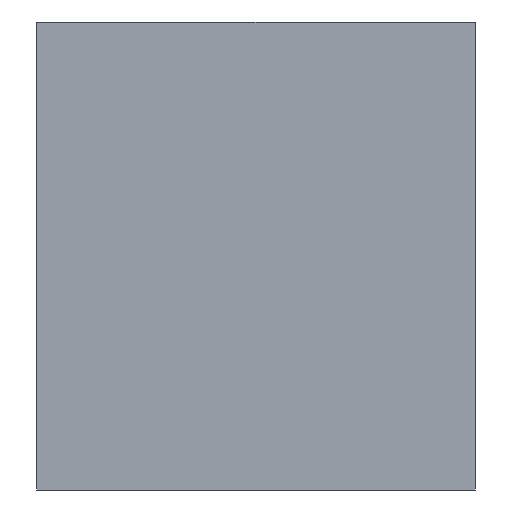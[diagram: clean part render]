
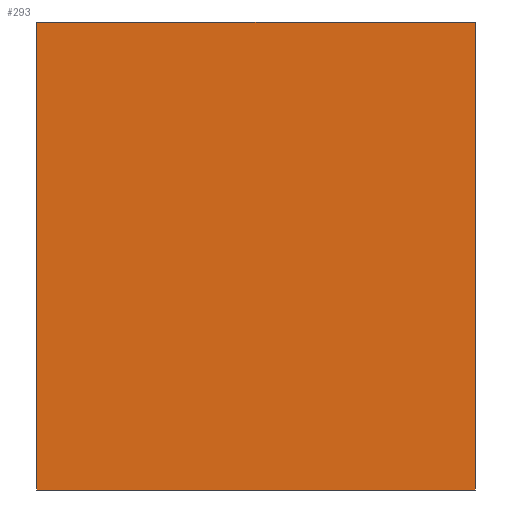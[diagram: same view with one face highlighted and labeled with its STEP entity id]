
A CAD part, left-side view. The second image highlights one B-rep face of the part: STEP entity #293.
In plain terms, the highlighted planar face has unit normal (-1, 0, 0).
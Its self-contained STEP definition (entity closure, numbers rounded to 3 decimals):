
#293=ADVANCED_FACE('',(#746),#6262,.T.);
#746=FACE_OUTER_BOUND('',#1235,.T.);
#1235=EDGE_LOOP('',(#2438,#2439,#2440,#2441));
#2438=ORIENTED_EDGE('',*,*,#4020,.F.);
#2439=ORIENTED_EDGE('',*,*,#4012,.F.);
#2440=ORIENTED_EDGE('',*,*,#4021,.F.);
#2441=ORIENTED_EDGE('',*,*,#4016,.T.);
#4012=EDGE_CURVE('',#5854,#5855,#4789,.T.);
#4016=EDGE_CURVE('',#5858,#5859,#4793,.T.);
#4020=EDGE_CURVE('',#5855,#5859,#4797,.T.);
#4021=EDGE_CURVE('',#5858,#5854,#4798,.T.);
#4789=B_SPLINE_CURVE_WITH_KNOTS('',1,(#15861,#15862),.UNSPECIFIED.,.F.,
 .F.,(2,2),(0.,150.),.UNSPECIFIED.);
#4793=B_SPLINE_CURVE_WITH_KNOTS('',1,(#15869,#15870),.UNSPECIFIED.,.F.,
 .F.,(2,2),(-150.,0.),.UNSPECIFIED.);
#4797=B_SPLINE_CURVE_WITH_KNOTS('',1,(#15877,#15878),.UNSPECIFIED.,.F.,
 .F.,(2,2),(-160.,0.),.UNSPECIFIED.);
#4798=B_SPLINE_CURVE_WITH_KNOTS('',1,(#15879,#15880),.UNSPECIFIED.,.F.,
 .F.,(2,2),(-160.,0.),.UNSPECIFIED.);
#5854=VERTEX_POINT('',#15749);
#5855=VERTEX_POINT('',#15750);
#5858=VERTEX_POINT('',#15753);
#5859=VERTEX_POINT('',#15754);
#6262=PLANE('',#6715);
#6715=AXIS2_PLACEMENT_3D('',#15541,#6906,$);
#6906=DIRECTION('',(-1.,0.,0.));
#15541=CARTESIAN_POINT('',(-75.,-170.,-96.));
#15749=CARTESIAN_POINT('',(-75.,-5.,80.));
#15750=CARTESIAN_POINT('',(-75.,-155.,80.));
#15753=CARTESIAN_POINT('',(-75.,-5.,-80.));
#15754=CARTESIAN_POINT('',(-75.,-155.,-80.));
#15861=CARTESIAN_POINT('',(-75.,-5.,80.));
#15862=CARTESIAN_POINT('',(-75.,-155.,80.));
#15869=CARTESIAN_POINT('',(-75.,-5.,-80.));
#15870=CARTESIAN_POINT('',(-75.,-155.,-80.));
#15877=CARTESIAN_POINT('',(-75.,-155.,80.));
#15878=CARTESIAN_POINT('',(-75.,-155.,-80.));
#15879=CARTESIAN_POINT('',(-75.,-5.,-80.));
#15880=CARTESIAN_POINT('',(-75.,-5.,80.));
